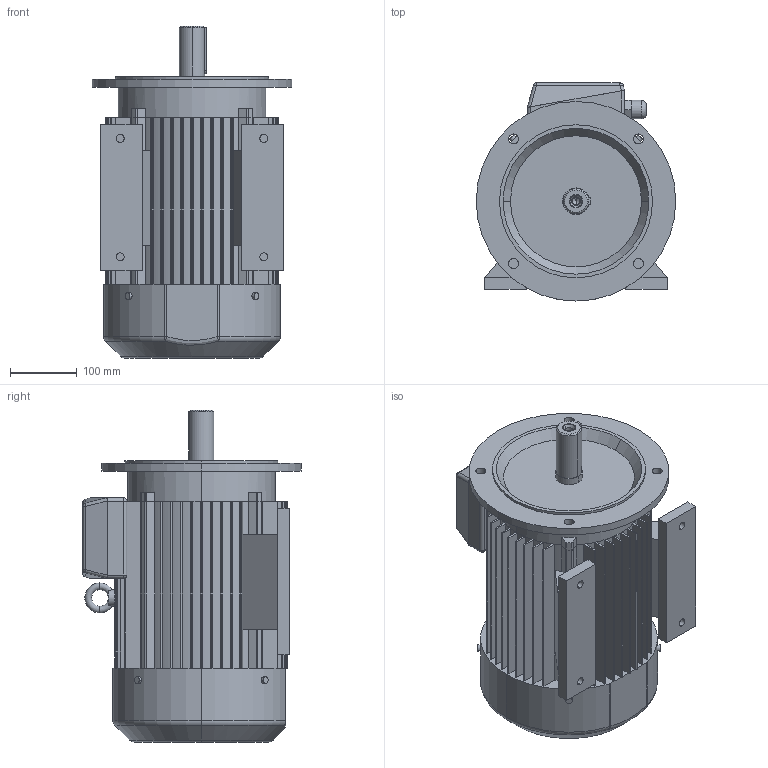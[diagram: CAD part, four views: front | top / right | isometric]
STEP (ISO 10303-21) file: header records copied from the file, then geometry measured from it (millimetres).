
FILE_DESCRIPTION (( 'STEP AP203' ), '1' );
FILE_NAME ('2SIEL132M4,6A,6B.STEP', '2012-10-29T07:54:48', ( 'INDUKTA' ), ( 'CANTONI MOTOR' ), 'SwSTEP 2.0', 'SolidWorks 2003064', '' );
FILE_SCHEMA (( 'CONFIG_CONTROL_DESIGN' ));
Length unit declared in the file: millimetre
Products named in the file (1): 2SIEL132M4,6A,6B
Bounding box: 300 x 328 x 499 mm (x, y, z)
Volume: 20859882.7 mm3; surface area: 1180195.6 mm2
Topology: 14 solids, 14 shells, 417 faces, 1104 edges, 702 vertices
Faces by surface type: cylinder 191, plane 188, cone 14, torus 13, sphere 10, bspline 1
Entity records: 13729 total; most frequent: CARTESIAN_POINT 3078, DIRECTION 2309, ORIENTED_EDGE 2184, EDGE_CURVE 1092, AXIS2_PLACEMENT_3D 837, VERTEX_POINT 702, LINE 635, VECTOR 635
